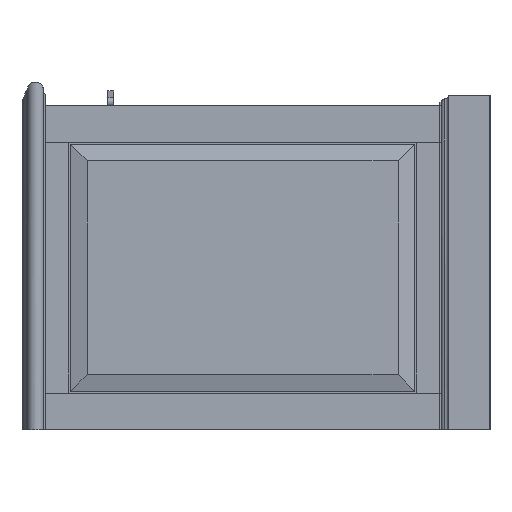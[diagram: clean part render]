
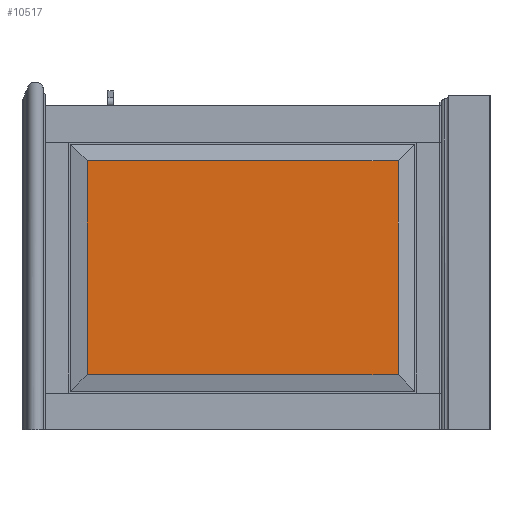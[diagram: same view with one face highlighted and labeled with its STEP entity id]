
A CAD part, left-side view. The second image highlights one B-rep face of the part: STEP entity #10517.
In plain terms, the highlighted planar face has unit normal (-1, 0, 0).
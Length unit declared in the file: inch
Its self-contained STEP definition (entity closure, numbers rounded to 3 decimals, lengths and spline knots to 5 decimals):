
#2124=FACE_OUTER_BOUND('',#2658,.T.);
#2658=EDGE_LOOP('',(#7994,#7995,#7996,#7997));
#3599=LINE('',#15708,#4497);
#3608=LINE('',#15726,#4506);
#3621=LINE('',#15752,#4519);
#3626=LINE('',#15761,#4524);
#4497=VECTOR('',#12718,0.3937);
#4506=VECTOR('',#12733,0.3937);
#4519=VECTOR('',#12754,0.3937);
#4524=VECTOR('',#12765,0.3937);
#5315=VERTEX_POINT('',#15702);
#5317=VERTEX_POINT('',#15706);
#5323=VERTEX_POINT('',#15723);
#5332=VERTEX_POINT('',#15749);
#6297=EDGE_CURVE('',#5315,#5317,#3599,.T.);
#6306=EDGE_CURVE('',#5323,#5315,#3608,.T.);
#6319=EDGE_CURVE('',#5332,#5323,#3621,.T.);
#6324=EDGE_CURVE('',#5317,#5332,#3626,.T.);
#7994=ORIENTED_EDGE('',*,*,#6297,.T.);
#7995=ORIENTED_EDGE('',*,*,#6324,.T.);
#7996=ORIENTED_EDGE('',*,*,#6319,.T.);
#7997=ORIENTED_EDGE('',*,*,#6306,.T.);
#10199=PLANE('',#11286);
#10517=ADVANCED_FACE('',(#2124),#10199,.T.);
#11286=AXIS2_PLACEMENT_3D('',#15781,#12787,#12788);
#12718=DIRECTION('',(0.,1.,0.));
#12733=DIRECTION('',(0.,0.,1.));
#12754=DIRECTION('',(0.,-1.,0.));
#12765=DIRECTION('',(0.,0.,-1.));
#12787=DIRECTION('center_axis',(-1.,0.,0.));
#12788=DIRECTION('ref_axis',(0.,0.,1.));
#15702=CARTESIAN_POINT('',(0.25,-26.875,-4.125));
#15706=CARTESIAN_POINT('',(0.25,-3.625,-4.125));
#15708=CARTESIAN_POINT('',(0.25,-21.0625,-4.125));
#15723=CARTESIAN_POINT('',(0.25,-26.875,-20.125));
#15726=CARTESIAN_POINT('',(0.25,-26.875,-16.125));
#15749=CARTESIAN_POINT('',(0.25,-3.625,-20.125));
#15752=CARTESIAN_POINT('',(0.25,-9.4375,-20.125));
#15761=CARTESIAN_POINT('',(0.25,-3.625,-7.4375));
#15781=CARTESIAN_POINT('Origin',(0.25,-15.25,-12.125));
